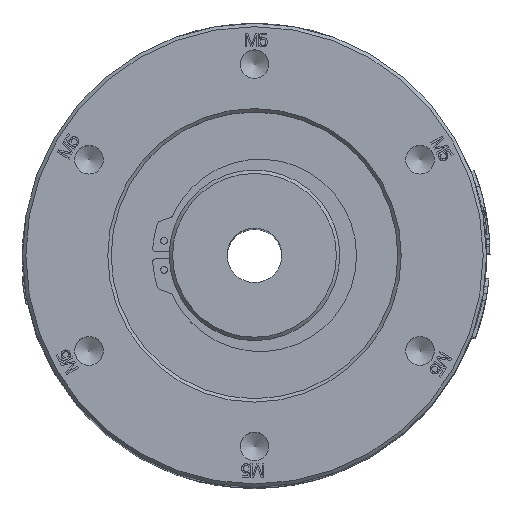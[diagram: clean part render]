
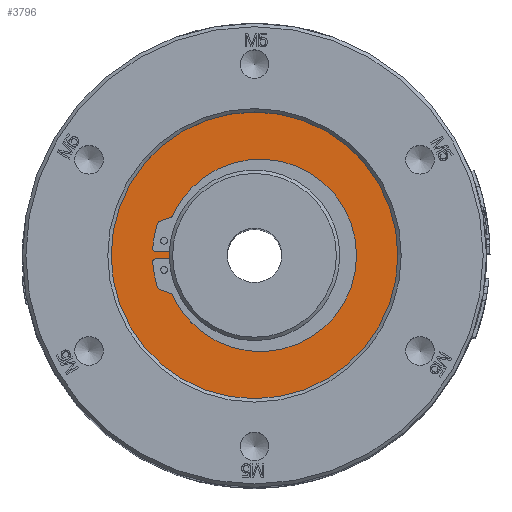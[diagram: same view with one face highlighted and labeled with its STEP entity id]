
A CAD part, top view. The second image highlights one B-rep face of the part: STEP entity #3796.
In plain terms, the highlighted planar face has unit normal (0, 0, 1).
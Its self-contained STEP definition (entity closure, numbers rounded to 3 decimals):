
#54=(
BOUNDED_CURVE()
B_SPLINE_CURVE(3,(#65350,#65351,#65352,#65353,#65354,#65355,#65356),
 .UNSPECIFIED.,.F.,.F.)
B_SPLINE_CURVE_WITH_KNOTS((4,3,4),(0.,0.5,1.),.UNSPECIFIED.)
CURVE()
GEOMETRIC_REPRESENTATION_ITEM()
RATIONAL_B_SPLINE_CURVE((1.,0.345,0.345,1.,0.345,
0.345,1.))
REPRESENTATION_ITEM('')
);
#55=(
BOUNDED_CURVE()
B_SPLINE_CURVE(3,(#65391,#65392,#65393,#65394,#65395,#65396,#65397),
 .UNSPECIFIED.,.F.,.F.)
B_SPLINE_CURVE_WITH_KNOTS((4,3,4),(0.,0.5,1.),.UNSPECIFIED.)
CURVE()
GEOMETRIC_REPRESENTATION_ITEM()
RATIONAL_B_SPLINE_CURVE((1.,0.345,0.345,1.,0.345,
0.345,1.))
REPRESENTATION_ITEM('')
);
#250=FACE_BOUND('',#10744,.T.);
#251=FACE_BOUND('',#10745,.T.);
#620=CIRCLE('',#36406,12.5);
#642=CIRCLE('',#36436,14.1);
#643=CIRCLE('',#36440,14.95);
#644=CIRCLE('',#36442,0.5);
#645=CIRCLE('',#36446,14.95);
#646=CIRCLE('',#36450,0.5);
#647=CIRCLE('',#36452,0.5);
#649=CIRCLE('',#36457,0.5);
#650=CIRCLE('',#36459,0.5);
#651=CIRCLE('',#36461,0.5);
#652=CIRCLE('',#36464,21.);
#1356=PLANE('',#36465);
#2309=LINE('',#65373,#7028);
#2312=LINE('',#65378,#7031);
#2319=LINE('',#65417,#7038);
#2323=LINE('',#65427,#7042);
#3796=ADVANCED_FACE('',(#250,#251),#1356,.F.);
#7028=VECTOR('',#39801,1.);
#7031=VECTOR('',#39806,1.);
#7038=VECTOR('',#39825,1.);
#7042=VECTOR('',#39835,1.);
#10744=EDGE_LOOP('',(#17656,#17657,#17658,#17659,#17660,#17661,#17662,#17663,
#17664,#17665,#17666,#17667,#17668,#17669,#17670,#17671));
#10745=EDGE_LOOP('',(#17672));
#17656=ORIENTED_EDGE('',*,*,#29390,.F.);
#17657=ORIENTED_EDGE('',*,*,#29413,.T.);
#17658=ORIENTED_EDGE('',*,*,#29395,.F.);
#17659=ORIENTED_EDGE('',*,*,#29398,.T.);
#17660=ORIENTED_EDGE('',*,*,#29393,.T.);
#17661=ORIENTED_EDGE('',*,*,#29352,.T.);
#17662=ORIENTED_EDGE('',*,*,#29403,.T.);
#17663=ORIENTED_EDGE('',*,*,#29410,.T.);
#17664=ORIENTED_EDGE('',*,*,#29404,.F.);
#17665=ORIENTED_EDGE('',*,*,#29411,.T.);
#17666=ORIENTED_EDGE('',*,*,#29408,.F.);
#17667=ORIENTED_EDGE('',*,*,#29415,.T.);
#17668=ORIENTED_EDGE('',*,*,#29399,.F.);
#17669=ORIENTED_EDGE('',*,*,#29384,.F.);
#17670=ORIENTED_EDGE('',*,*,#29388,.F.);
#17671=ORIENTED_EDGE('',*,*,#29414,.T.);
#17672=ORIENTED_EDGE('',*,*,#29416,.F.);
#24557=VERTEX_POINT('',#65257);
#24559=VERTEX_POINT('',#65261);
#24588=VERTEX_POINT('',#65343);
#24589=VERTEX_POINT('',#65344);
#24590=VERTEX_POINT('',#65349);
#24591=VERTEX_POINT('',#65372);
#24592=VERTEX_POINT('',#65374);
#24593=VERTEX_POINT('',#65379);
#24594=VERTEX_POINT('',#65383);
#24595=VERTEX_POINT('',#65384);
#24596=VERTEX_POINT('',#65398);
#24597=VERTEX_POINT('',#65416);
#24598=VERTEX_POINT('',#65420);
#24599=VERTEX_POINT('',#65421);
#24600=VERTEX_POINT('',#65426);
#24601=VERTEX_POINT('',#65428);
#24603=VERTEX_POINT('',#65448);
#29352=EDGE_CURVE('',#24557,#24559,#620,.T.);
#29384=EDGE_CURVE('',#24588,#24589,#642,.T.);
#29388=EDGE_CURVE('',#24590,#24588,#54,.T.);
#29390=EDGE_CURVE('',#24591,#24592,#2309,.T.);
#29393=EDGE_CURVE('',#24593,#24557,#2312,.T.);
#29395=EDGE_CURVE('',#24594,#24595,#643,.T.);
#29398=EDGE_CURVE('',#24594,#24593,#644,.T.);
#29399=EDGE_CURVE('',#24589,#24596,#55,.T.);
#29403=EDGE_CURVE('',#24559,#24597,#2319,.T.);
#29404=EDGE_CURVE('',#24598,#24599,#645,.T.);
#29408=EDGE_CURVE('',#24600,#24601,#2323,.T.);
#29410=EDGE_CURVE('',#24597,#24599,#646,.T.);
#29411=EDGE_CURVE('',#24598,#24601,#647,.T.);
#29413=EDGE_CURVE('',#24591,#24595,#649,.T.);
#29414=EDGE_CURVE('',#24590,#24592,#650,.T.);
#29415=EDGE_CURVE('',#24600,#24596,#651,.T.);
#29416=EDGE_CURVE('',#24603,#24603,#652,.T.);
#36406=AXIS2_PLACEMENT_3D('',#65262,#39725,#39726);
#36436=AXIS2_PLACEMENT_3D('',#65342,#39793,#39794);
#36440=AXIS2_PLACEMENT_3D('',#65382,#39810,#39811);
#36442=AXIS2_PLACEMENT_3D('',#65388,#39816,#39817);
#36446=AXIS2_PLACEMENT_3D('',#65419,#39828,#39829);
#36450=AXIS2_PLACEMENT_3D('',#65432,#39841,#39842);
#36452=AXIS2_PLACEMENT_3D('',#65434,#39845,#39846);
#36457=AXIS2_PLACEMENT_3D('',#65440,#39855,#39856);
#36459=AXIS2_PLACEMENT_3D('',#65442,#39859,#39860);
#36461=AXIS2_PLACEMENT_3D('',#65444,#39863,#39864);
#36464=AXIS2_PLACEMENT_3D('',#65447,#39869,#39870);
#36465=AXIS2_PLACEMENT_3D('',#65449,#39871,#39872);
#39725=DIRECTION('',(0.,0.,-1.));
#39726=DIRECTION('',(-1.,0.,0.));
#39793=DIRECTION('',(0.,0.,1.));
#39794=DIRECTION('',(-1.,0.,0.));
#39801=DIRECTION('',(0.94,-0.342,0.));
#39806=DIRECTION('',(1.,0.,0.));
#39810=DIRECTION('',(0.,0.,1.));
#39811=DIRECTION('',(-1.,0.,0.));
#39816=DIRECTION('',(0.,0.,-1.));
#39817=DIRECTION('',(-1.,0.,0.));
#39825=DIRECTION('',(-1.,0.,0.));
#39828=DIRECTION('',(0.,0.,1.));
#39829=DIRECTION('',(-1.,0.,0.));
#39835=DIRECTION('',(-0.94,-0.342,0.));
#39841=DIRECTION('',(0.,0.,-1.));
#39842=DIRECTION('',(-1.,0.,0.));
#39845=DIRECTION('',(0.,0.,-1.));
#39846=DIRECTION('',(-1.,0.,0.));
#39855=DIRECTION('',(0.,0.,-1.));
#39856=DIRECTION('',(-1.,0.,0.));
#39859=DIRECTION('',(0.,0.,1.));
#39860=DIRECTION('',(-1.,0.,0.));
#39863=DIRECTION('',(0.,0.,1.));
#39864=DIRECTION('',(-1.,0.,0.));
#39869=DIRECTION('',(0.,0.,-1.));
#39870=DIRECTION('',(-1.,0.,0.));
#39871=DIRECTION('',(0.,0.,-1.));
#39872=DIRECTION('',(-1.,0.,0.));
#65257=CARTESIAN_POINT('',(-12.49,-0.5,109.5));
#65261=CARTESIAN_POINT('',(-12.49,0.5,109.5));
#65262=CARTESIAN_POINT('',(0.,0.,109.5));
#65342=CARTESIAN_POINT('',(0.85,0.,109.5));
#65343=CARTESIAN_POINT('',(-9.311,-9.776,109.5));
#65344=CARTESIAN_POINT('',(-9.311,9.776,109.5));
#65349=CARTESIAN_POINT('',(-11.987,-5.832,109.5));
#65350=CARTESIAN_POINT('',(-13.241,-0.5,109.5));
#65351=CARTESIAN_POINT('',(-12.275,-27.713,109.5));
#65352=CARTESIAN_POINT('',(14.95,-27.23,109.5));
#65353=CARTESIAN_POINT('',(14.95,0.,109.5));
#65354=CARTESIAN_POINT('',(14.95,27.23,109.5));
#65355=CARTESIAN_POINT('',(-12.275,27.713,109.5));
#65356=CARTESIAN_POINT('',(-13.241,0.5,109.5));
#65372=CARTESIAN_POINT('',(-13.89,-4.977,109.5));
#65373=CARTESIAN_POINT('',(-3.225,-8.861,109.5));
#65374=CARTESIAN_POINT('',(-12.271,-5.569,109.5));
#65378=CARTESIAN_POINT('',(0.,-0.5,109.5));
#65379=CARTESIAN_POINT('',(-14.415,-0.5,109.5));
#65382=CARTESIAN_POINT('',(0.,0.,109.5));
#65383=CARTESIAN_POINT('',(-14.914,-1.035,109.5));
#65384=CARTESIAN_POINT('',(-14.205,-4.662,109.5));
#65388=CARTESIAN_POINT('',(-14.415,-1.,109.5));
#65391=CARTESIAN_POINT('',(-13.241,-0.5,109.5));
#65392=CARTESIAN_POINT('',(-12.275,-27.713,109.5));
#65393=CARTESIAN_POINT('',(14.95,-27.23,109.5));
#65394=CARTESIAN_POINT('',(14.95,0.,109.5));
#65395=CARTESIAN_POINT('',(14.95,27.23,109.5));
#65396=CARTESIAN_POINT('',(-12.275,27.713,109.5));
#65397=CARTESIAN_POINT('',(-13.241,0.5,109.5));
#65398=CARTESIAN_POINT('',(-11.987,5.832,109.5));
#65416=CARTESIAN_POINT('',(-14.415,0.5,109.5));
#65417=CARTESIAN_POINT('',(0.,0.5,109.5));
#65419=CARTESIAN_POINT('',(0.,0.,109.5));
#65420=CARTESIAN_POINT('',(-14.205,4.662,109.5));
#65421=CARTESIAN_POINT('',(-14.914,1.035,109.5));
#65426=CARTESIAN_POINT('',(-12.271,5.569,109.5));
#65427=CARTESIAN_POINT('',(-3.225,8.861,109.5));
#65428=CARTESIAN_POINT('',(-13.889,4.978,109.5));
#65432=CARTESIAN_POINT('',(-14.415,1.,109.5));
#65434=CARTESIAN_POINT('',(-13.73,4.506,109.5));
#65440=CARTESIAN_POINT('',(-13.73,-4.506,109.5));
#65442=CARTESIAN_POINT('',(-12.442,-6.038,109.5));
#65444=CARTESIAN_POINT('',(-12.442,6.038,109.5));
#65447=CARTESIAN_POINT('',(0.,0.,109.5));
#65448=CARTESIAN_POINT('',(-21.,0.,109.5));
#65449=CARTESIAN_POINT('',(0.,0.,109.5));
